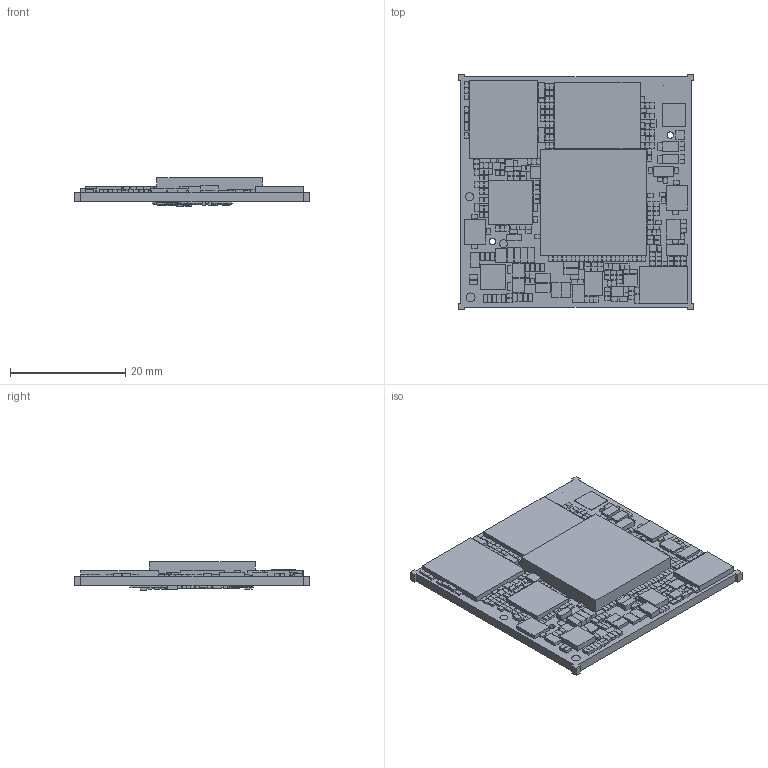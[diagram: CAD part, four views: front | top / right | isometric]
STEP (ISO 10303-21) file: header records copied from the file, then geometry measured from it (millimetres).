
FILE_DESCRIPTION (( 'STEP AP214' ), '1' );
FILE_NAME ('1598.1_Basic.STEP', '2023-12-08T22:54:09', ( '' ), ( '' ), 'SwSTEP 2.0', 'SolidWorks 2022', '' );
FILE_SCHEMA (( 'AUTOMOTIVE_DESIGN' ));
Length unit declared in the file: millimetre
Products named in the file (536): _R146_; _C258_; _R106_; _C326_; _R38_; _C222_; _TP8_; _R90_; _C220_; _R232_; _C259_; _R137_; _C80_; _TP32_; _C255_; _C154_; _C105_; _C64_; _R230_; _C69_; _U8_; _C302_; _R32_; _R114_; _C101_; _C273_; _R18_; _C73_; _R152_; _R223_; _R53_; _D1_; _R70_; _R211_; _C330_; _Q5_; _C93_; _R48_; _C176_; _L6_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
Assembly tree (535 placements, depth 2):
  1598.1_Basic
    _C103_
    _C104_
    _C105_
    Board_outline
    _C102_
    _C106_
    _C107_
    _C108_
    _C109_
    _C110_
    _C112_
    _C111_
    _C1_
    _C101_
    _C100_
    _C17_
    _C170_
    _C120_
    _C135_
    _C146_
    _C153_
    _C132_
    _C154_
    _C171_
    _C174_
    _C136_
    _C175_
    _C177_
    _C172_
    _C158_
    _C178_
    _C179_
    _C133_
    _C155_
    _C126_
    _C119_
    _C124_
    _C145_
    _C162_
    _C113_
    _C134_
    _C137_
    _C130_
    _C176_
    _C122_
    _C117_
    _C118_
    _C127_
    _C129_
    _C128_
    _C156_
    _C115_
    _C150_
    _C151_
    _C121_
    _C116_
    _C123_
    _C159_
    _C163_
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Bounding box: 40.8 x 40.8 x 4.96 mm (x, y, z)
Volume: 4182 mm3; surface area: 7577.4 mm2
Topology: 535 solids, 535 shells, 3184 faces, 6342 edges, 4228 vertices
Faces by surface type: plane 3130, cylinder 54
Entity records: 139113 total; most frequent: CARTESIAN_POINT 14292, DIRECTION 13894, ORIENTED_EDGE 12684, EDGE_CURVE 6342, LINE 6234, VECTOR 6234, UNCERTAINTY_MEASURE_WITH_UNIT 4785, FILL_AREA_STYLE 4249
